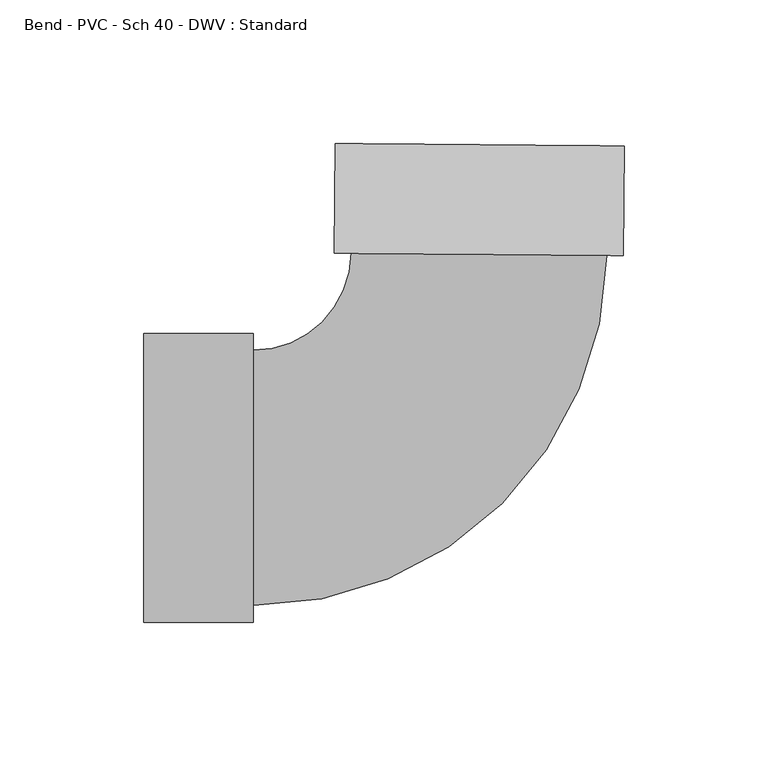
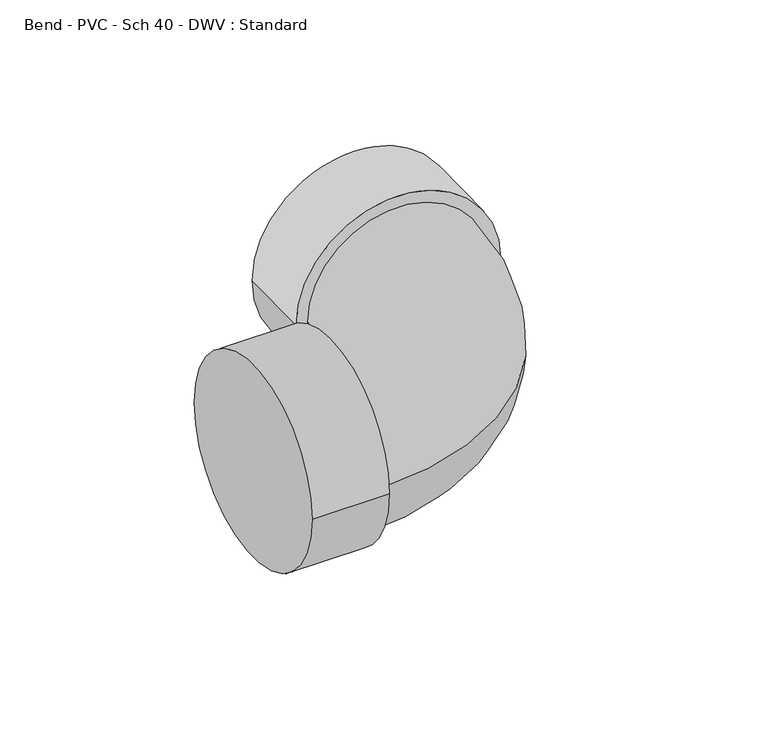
"""IFC4 building model written with IfcOpenShell, lengths in millimetres: pipe fitting geometry, Bend - PVC - Sch 40 - DWV : Standard."""

from ifc_helpers import new_model, si_unit, point, frame, origin, place, context, project, spatial, circle_curve, ellipse_curve, trimmed, source, transform, mapped, element, save
from ifc_brep_helpers import plane_surface, cylinder_surface, revolved_surface, advanced_brep


def bend_pvc_sch_40_dwv_standard_97be7f04(model_context):
    return source(origin(), model_context, "Body", "AdvancedBrep", [
        advanced_brep(
        [(-115.9002, -50.2666, 0.0), (-115.9002, 50.2666, 0.0), (-77.8002, -50.2666, 0.0), (-77.8002, 50.2666, 0.0), (-77.8002, -44.45, 0.0), (-77.8002, 44.45, 0.0), (-43.8091485, 78.1628564, 0.0), (45.0878496, 77.4322894, 0.0), (50.9042532, 77.3844894, 0.0), (-49.6255521, 78.2106564, 0.0), (51.2173533, 115.4832029, 0.0), (-49.312452, 116.3093699, 0.0)],
        [
            (0, 1, circle_curve(frame((-115.9002, 0.0, 0.0), z_axis=(-1.0, 0.0, 0.0), x_axis=(0.0, 1.0, 0.0)), 50.2666)),
            (1, 0, circle_curve(frame((-115.9002, 0.0, 0.0), z_axis=(-1.0, 0.0, 0.0), x_axis=(0.0, 1.0, 0.0)), 50.2666)),
            (2, 3, circle_curve(frame((-77.8002, 0.0, 0.0), z_axis=(1.0, 0.0, 0.0), x_axis=(0.0, 1.0, 0.0)), 50.2666)),
            (3, 2, circle_curve(frame((-77.8002, 0.0, 0.0), z_axis=(1.0, 0.0, 0.0), x_axis=(0.0, 1.0, 0.0)), 50.2666)),
            (4, 5, circle_curve(frame((-77.8002, 0.0, 0.0), z_axis=(-1.0, 0.0, 0.0), x_axis=(0.0, 1.0, 0.0)), 44.45)),
            (5, 4, circle_curve(frame((-77.8002, 0.0, 0.0), z_axis=(-1.0, 0.0, 0.0), x_axis=(0.0, 1.0, 0.0)), 44.45)),
            (0, 2),
            (3, 1),
            (6, 5, circle_curve(frame((-77.8002, 78.4421993, 0.0), z_axis=(0.0, 0.0, -1.0), x_axis=(0.0, -1.0, 0.0)), 33.9921993)),
            (4, 7, circle_curve(frame((-77.8002, 78.4421993, 0.0), z_axis=(0.0, 0.0, 1.0), x_axis=(0.0, -1.0, 0.0)), 122.8921993)),
            (7, 6, circle_curve(frame((0.6393505, 77.7975729, 0.0), z_axis=(-0.008217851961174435, -0.9999662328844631, 0.0), x_axis=(-0.9999662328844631, 0.008217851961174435, 0.0)), 44.45)),
            (6, 7, circle_curve(frame((0.6393505, 77.7975729, 0.0), z_axis=(-0.008217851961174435, -0.9999662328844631, 0.0), x_axis=(-0.9999662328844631, 0.008217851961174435, 0.0)), 44.45)),
            (8, 9, circle_curve(frame((0.6393505, 77.7975729, 0.0), z_axis=(-0.008217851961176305, -0.9999662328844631, 0.0), x_axis=(-0.9999662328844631, 0.008217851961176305, 0.0)), 50.2666)),
            (9, 8, circle_curve(frame((0.6393505, 77.7975729, 0.0), z_axis=(-0.008217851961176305, -0.9999662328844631, 0.0), x_axis=(-0.9999662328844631, 0.008217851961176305, 0.0)), 50.2666)),
            (10, 11, circle_curve(frame((0.9524507, 115.8962864, 0.0), z_axis=(0.008217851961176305, 0.9999662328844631, 0.0), x_axis=(-0.9999662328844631, 0.008217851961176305, 0.0)), 50.2666)),
            (11, 10, circle_curve(frame((0.9524507, 115.8962864, 0.0), z_axis=(0.008217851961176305, 0.9999662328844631, 0.0), x_axis=(-0.9999662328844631, 0.008217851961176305, 0.0)), 50.2666)),
            (8, 10),
            (11, 9),
        ],
        [
            plane_surface(frame((-115.9002, 0.0, 0.0), z_axis=(-1.0, 0.0, 0.0), x_axis=(0.0, 0.0, 1.0))),
            plane_surface(frame((-77.8002, 0.0, 0.0), z_axis=(1.0, 0.0, 0.0), x_axis=(0.0, 0.0, 1.0))),
            cylinder_surface(frame((-115.9002, 0.0, 0.0), z_axis=(-1.0, 0.0, 0.0), x_axis=(0.0, 1.0, 0.0)), 50.2666),
            revolved_surface(trimmed(ellipse_curve(frame((-77.8002, 0.0, 0.0), z_axis=(-1.0, 0.0, 0.0), x_axis=(0.0, 1.0, 0.0)), 44.45, 44.45), [point((-77.8002, -44.45, 0.0))], [point((-77.8002, 44.45, 0.0))], True, "CARTESIAN"), (-77.8002, 78.4421993, 0.0), (0.0, 0.0, 1.0)),
            revolved_surface(trimmed(ellipse_curve(frame((-77.8002, 0.0, 0.0), z_axis=(-1.0, 0.0, 0.0), x_axis=(0.0, 1.0, 0.0)), 44.45, 44.45), [point((-77.8002, 44.45, 0.0))], [point((-77.8002, -44.45, 0.0))], True, "CARTESIAN"), (-77.8002, 78.4421993, 0.0), (0.0, 0.0, 1.0)),
            plane_surface(frame((0.6393505, 77.7975729, 0.0), z_axis=(-0.008217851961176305, -0.9999662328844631, 0.0), x_axis=(0.0, 0.0, 1.0))),
            plane_surface(frame((0.9524507, 115.8962864, 0.0), z_axis=(0.008217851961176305, 0.9999662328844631, 0.0), x_axis=(0.0, 0.0, 1.0))),
            cylinder_surface(frame((0.6393505, 77.7975729, 0.0), z_axis=(-0.008217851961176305, -0.9999662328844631, 0.0), x_axis=(-0.9999662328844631, 0.008217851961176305, 0.0)), 50.2666),
        ],
        [
            (0, [[1, 2]]),
            (1, [[3, 4], [5, 6]]),
            (2, [[-1, 7, -4, 8]]),
            (2, [[-2, -8, -3, -7]]),
            (3, [[9, -5, 10, 11]]),
            (4, [[-9, 12, -10, -6]]),
            (5, [[13, 14], [-11, -12]]),
            (6, [[15, 16]]),
            (7, [[-13, 17, -16, 18]]),
            (7, [[-14, -18, -15, -17]]),
        ],
    ),
    ])


if __name__ == "__main__":
    model = new_model("IFC4")
    model_context = context("Model", 3, world=origin())
    ifc_project = project(units=[si_unit("LENGTHUNIT", "METRE", prefix="MILLI")], contexts=[model_context])
    site = spatial("IfcSite", under=ifc_project)
    building = spatial("IfcBuilding", under=site)
    placement = place(None, origin())
    bend_pvc_sch_40_dwv_standard_shape = bend_pvc_sch_40_dwv_standard_97be7f04(model_context)
    element("IfcPipeFitting", 1, ObjectType="Bend - PVC - Sch 40 - DWV : Standard", at=placement, inside=building, context=model_context, shape_type="MappedRepresentation", body=[
        mapped(bend_pvc_sch_40_dwv_standard_shape, transform((0.0, 0.0, 0.0), x_axis=(1.0, 0.0, 0.0), y_axis=(0.0, 1.0, 0.0), z_axis=(0.0, 0.0, 1.0))),
    ])
    save(model, "model.ifc")
